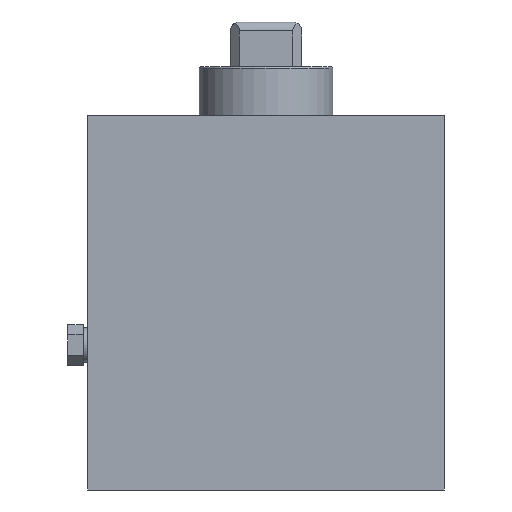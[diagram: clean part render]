
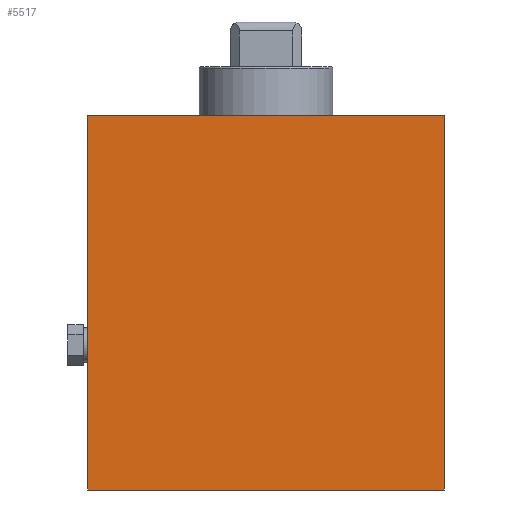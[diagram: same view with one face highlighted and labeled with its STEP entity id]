
A CAD part, front view. The second image highlights one B-rep face of the part: STEP entity #5517.
In plain terms, the highlighted planar face has unit normal (0, -1, 0).
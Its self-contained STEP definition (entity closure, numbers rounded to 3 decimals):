
#155 = LINE ( 'NONE', #6494, #156 ) ;
#156 = VECTOR ( 'NONE', #6495, 1000. ) ;
#3994 = CARTESIAN_POINT ( 'NONE',  ( 0., 0., 84. ) ) ;
#3998 = PLANE ( 'NONE',  #4992 ) ;
#4001 = DIRECTION ( 'NONE',  ( 0., 1., 0. ) ) ;
#4002 = DIRECTION ( 'NONE',  ( 0., 0., 1. ) ) ;
#4372 = EDGE_LOOP ( 'NONE', ( #9108, #9109, #9110, #9111 ) ) ;
#4594 = FACE_OUTER_BOUND ( 'NONE', #4372, .T. ) ;
#4992 = AXIS2_PLACEMENT_3D ( 'NONE', #3994, #4001, #4002 ) ;
#5517 = ADVANCED_FACE ( 'NONE', ( #4594 ), #3998, .F. ) ;
#6494 = CARTESIAN_POINT ( 'NONE',  ( 0., 0., 84. ) ) ;
#6495 = DIRECTION ( 'NONE',  ( 1., 0., 0. ) ) ;
#8439 = EDGE_CURVE ( 'NONE', #13808, #14269, #10707, .T. ) ;
#8464 = EDGE_CURVE ( 'NONE', #13806, #14267, #10774, .T. ) ;
#8465 = EDGE_CURVE ( 'NONE', #14269, #14267, #10779, .T. ) ;
#8789 = EDGE_CURVE ( 'NONE', #13808, #13806, #155, .T. ) ;
#9108 = ORIENTED_EDGE ( 'NONE', *, *, #8465, .T. ) ;
#9109 = ORIENTED_EDGE ( 'NONE', *, *, #8464, .F. ) ;
#9110 = ORIENTED_EDGE ( 'NONE', *, *, #8789, .F. ) ;
#9111 = ORIENTED_EDGE ( 'NONE', *, *, #8439, .T. ) ;
#10707 = LINE ( 'NONE', #16941, #10739 ) ;
#10739 = VECTOR ( 'NONE', #16944, 1000. ) ;
#10774 = LINE ( 'NONE', #17004, #10777 ) ;
#10777 = VECTOR ( 'NONE', #17008, 1000. ) ;
#10779 = LINE ( 'NONE', #17009, #10780 ) ;
#10780 = VECTOR ( 'NONE', #17010, 1000. ) ;
#13806 = VERTEX_POINT ( 'NONE', #18347 ) ;
#13808 = VERTEX_POINT ( 'NONE', #18349 ) ;
#14267 = VERTEX_POINT ( 'NONE', #18808 ) ;
#14269 = VERTEX_POINT ( 'NONE', #18810 ) ;
#16941 = CARTESIAN_POINT ( 'NONE',  ( 0., 0., 84. ) ) ;
#16944 = DIRECTION ( 'NONE',  ( 0., 0., -1. ) ) ;
#17004 = CARTESIAN_POINT ( 'NONE',  ( 80., 0., 84. ) ) ;
#17008 = DIRECTION ( 'NONE',  ( 0., 0., -1. ) ) ;
#17009 = CARTESIAN_POINT ( 'NONE',  ( 0., 0., 0. ) ) ;
#17010 = DIRECTION ( 'NONE',  ( 1., 0., 0. ) ) ;
#18347 = CARTESIAN_POINT ( 'NONE',  ( 80., 0., 84. ) ) ;
#18349 = CARTESIAN_POINT ( 'NONE',  ( 0., 0., 84. ) ) ;
#18808 = CARTESIAN_POINT ( 'NONE',  ( 80., 0., 0. ) ) ;
#18810 = CARTESIAN_POINT ( 'NONE',  ( 0., 0., 0. ) ) ;
